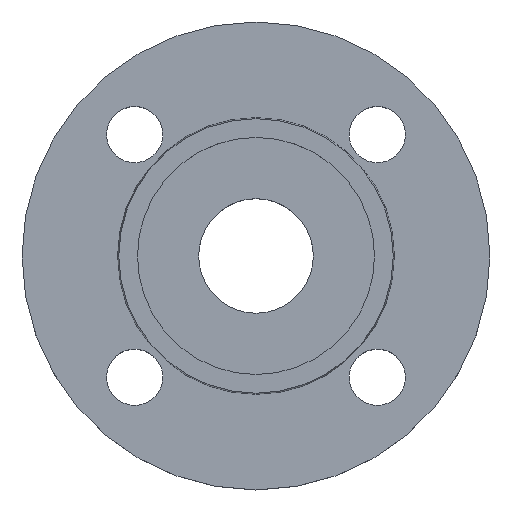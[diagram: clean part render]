
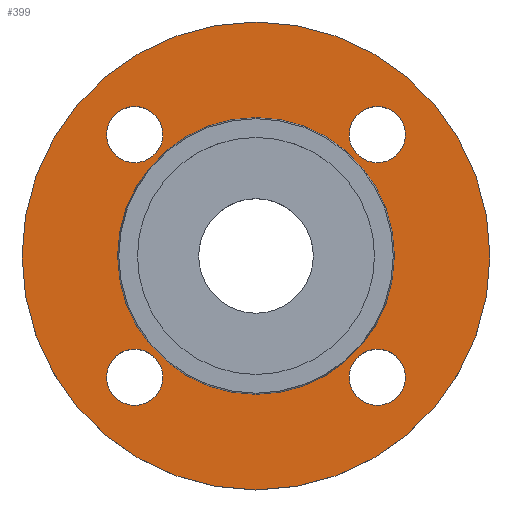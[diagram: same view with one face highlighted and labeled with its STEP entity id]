
A CAD part, top view. The second image highlights one B-rep face of the part: STEP entity #399.
In plain terms, the highlighted planar face has unit normal (0, 0, 1).
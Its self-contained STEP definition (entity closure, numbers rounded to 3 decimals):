
#42 = DIRECTION ( 'NONE',  ( 1., 0., 0. ) ) ;
#43 = DIRECTION ( 'NONE',  ( 0., 0., -1. ) ) ;
#44 = CARTESIAN_POINT ( 'NONE',  ( -38.891, -38.891, -2. ) ) ;
#48 = DIRECTION ( 'NONE',  ( -1., 0., 0. ) ) ;
#50 = CARTESIAN_POINT ( 'NONE',  ( -47.891, 38.891, -2. ) ) ;
#69 = AXIS2_PLACEMENT_3D ( 'NONE', #164, #168, #336 ) ;
#72 = CARTESIAN_POINT ( 'NONE',  ( 44.353, 0., -2. ) ) ;
#73 = EDGE_CURVE ( 'NONE', #424, #444, #386, .T. ) ;
#74 = CARTESIAN_POINT ( 'NONE',  ( -29.891, -38.891, -2. ) ) ;
#81 = CARTESIAN_POINT ( 'NONE',  ( -47.891, -38.891, -2. ) ) ;
#83 = CARTESIAN_POINT ( 'NONE',  ( 29.891, -38.891, -2. ) ) ;
#84 = CIRCLE ( 'NONE', #593, 9. ) ;
#91 = CARTESIAN_POINT ( 'NONE',  ( 47.891, -38.891, -2. ) ) ;
#112 = AXIS2_PLACEMENT_3D ( 'NONE', #226, #227, #229 ) ;
#120 = CARTESIAN_POINT ( 'NONE',  ( 75., 0., -2. ) ) ;
#134 = CARTESIAN_POINT ( 'NONE',  ( -75., 0., -2. ) ) ;
#141 = CARTESIAN_POINT ( 'NONE',  ( 0., 0., -2. ) ) ;
#146 = CARTESIAN_POINT ( 'NONE',  ( -44.353, 0., -2. ) ) ;
#147 = DIRECTION ( 'NONE',  ( -1., 0., 0. ) ) ;
#148 = DIRECTION ( 'NONE',  ( 0., 0., -1. ) ) ;
#164 = CARTESIAN_POINT ( 'NONE',  ( 38.891, -38.891, -2. ) ) ;
#168 = DIRECTION ( 'NONE',  ( 0., 0., -1. ) ) ;
#169 = CARTESIAN_POINT ( 'NONE',  ( 47.891, 38.891, -2. ) ) ;
#171 = DIRECTION ( 'NONE',  ( 1., 0., 0. ) ) ;
#173 = CARTESIAN_POINT ( 'NONE',  ( 38.891, -38.891, -2. ) ) ;
#188 = EDGE_CURVE ( 'NONE', #472, #500, #456, .T. ) ;
#201 = DIRECTION ( 'NONE',  ( 0., 0., -1. ) ) ;
#218 = CARTESIAN_POINT ( 'NONE',  ( 29.891, 38.891, -2. ) ) ;
#226 = CARTESIAN_POINT ( 'NONE',  ( -38.891, -38.891, -2. ) ) ;
#227 = DIRECTION ( 'NONE',  ( 0., 0., -1. ) ) ;
#229 = DIRECTION ( 'NONE',  ( 1., 0., 0. ) ) ;
#230 = CARTESIAN_POINT ( 'NONE',  ( 38.891, 38.891, -2. ) ) ;
#231 = DIRECTION ( 'NONE',  ( 0., 0., -1. ) ) ;
#233 = DIRECTION ( 'NONE',  ( 1., 0., 0. ) ) ;
#235 = EDGE_CURVE ( 'NONE', #428, #677, #431, .T. ) ;
#247 = CARTESIAN_POINT ( 'NONE',  ( 0., 0., -2. ) ) ;
#248 = EDGE_CURVE ( 'NONE', #677, #428, #645, .T. ) ;
#250 = DIRECTION ( 'NONE',  ( 0., 0., -1. ) ) ;
#252 = DIRECTION ( 'NONE',  ( -1., 0., 0. ) ) ;
#280 = EDGE_CURVE ( 'NONE', #663, #584, #371, .T. ) ;
#298 = AXIS2_PLACEMENT_3D ( 'NONE', #141, #148, #147 ) ;
#302 = CIRCLE ( 'NONE', #390, 44.353 ) ;
#303 = DIRECTION ( 'NONE',  ( 0., 0., -1. ) ) ;
#304 = FACE_BOUND ( 'NONE', #672, .T. ) ;
#305 = FACE_BOUND ( 'NONE', #678, .T. ) ;
#307 = FACE_BOUND ( 'NONE', #644, .T. ) ;
#308 = FACE_BOUND ( 'NONE', #674, .T. ) ;
#310 = FACE_BOUND ( 'NONE', #653, .T. ) ;
#311 = AXIS2_PLACEMENT_3D ( 'NONE', #423, #714, #715 ) ;
#312 = FACE_OUTER_BOUND ( 'NONE', #439, .T. ) ;
#314 = PLANE ( 'NONE',  #452 ) ;
#316 = CARTESIAN_POINT ( 'NONE',  ( 44.353, 0., -2. ) ) ;
#318 = DIRECTION ( 'NONE',  ( 0., 0., 1. ) ) ;
#319 = DIRECTION ( 'NONE',  ( 1., 0., 0. ) ) ;
#336 = DIRECTION ( 'NONE',  ( 1., 0., 0. ) ) ;
#345 = CARTESIAN_POINT ( 'NONE',  ( -29.891, 38.891, -2. ) ) ;
#346 = EDGE_CURVE ( 'NONE', #657, #668, #550, .T. ) ;
#358 = EDGE_CURVE ( 'NONE', #500, #472, #406, .T. ) ;
#367 = EDGE_CURVE ( 'NONE', #584, #663, #302, .T. ) ;
#369 = AXIS2_PLACEMENT_3D ( 'NONE', #801, #201, #48 ) ;
#371 = CIRCLE ( 'NONE', #369, 44.353 ) ;
#386 = CIRCLE ( 'NONE', #311, 75. ) ;
#390 = AXIS2_PLACEMENT_3D ( 'NONE', #247, #250, #252 ) ;
#399 = ADVANCED_FACE ( 'NONE', ( #304, #305, #307, #308, #310, #312 ), #314, .T. ) ;
#406 = CIRCLE ( 'NONE', #799, 9. ) ;
#418 = AXIS2_PLACEMENT_3D ( 'NONE', #44, #43, #42 ) ;
#420 = CIRCLE ( 'NONE', #418, 9. ) ;
#423 = CARTESIAN_POINT ( 'NONE',  ( 0., 0., -2. ) ) ;
#424 = VERTEX_POINT ( 'NONE', #134 ) ;
#428 = VERTEX_POINT ( 'NONE', #345 ) ;
#430 = AXIS2_PLACEMENT_3D ( 'NONE', #777, #778, #779 ) ;
#431 = CIRCLE ( 'NONE', #430, 9. ) ;
#439 = EDGE_LOOP ( 'NONE', ( #553, #555 ) ) ;
#444 = VERTEX_POINT ( 'NONE', #120 ) ;
#445 = EDGE_CURVE ( 'NONE', #444, #424, #736, .T. ) ;
#452 = AXIS2_PLACEMENT_3D ( 'NONE', #316, #318, #319 ) ;
#456 = CIRCLE ( 'NONE', #536, 9. ) ;
#472 = VERTEX_POINT ( 'NONE', #218 ) ;
#483 = AXIS2_PLACEMENT_3D ( 'NONE', #784, #785, #786 ) ;
#486 = CIRCLE ( 'NONE', #69, 9. ) ;
#494 = EDGE_CURVE ( 'NONE', #642, #651, #84, .T. ) ;
#500 = VERTEX_POINT ( 'NONE', #169 ) ;
#518 = EDGE_CURVE ( 'NONE', #651, #642, #486, .T. ) ;
#536 = AXIS2_PLACEMENT_3D ( 'NONE', #757, #758, #759 ) ;
#539 = ORIENTED_EDGE ( 'NONE', *, *, #494, .T. ) ;
#540 = ORIENTED_EDGE ( 'NONE', *, *, #518, .T. ) ;
#541 = ORIENTED_EDGE ( 'NONE', *, *, #710, .T. ) ;
#542 = ORIENTED_EDGE ( 'NONE', *, *, #346, .T. ) ;
#544 = ORIENTED_EDGE ( 'NONE', *, *, #235, .T. ) ;
#545 = ORIENTED_EDGE ( 'NONE', *, *, #248, .T. ) ;
#546 = ORIENTED_EDGE ( 'NONE', *, *, #358, .T. ) ;
#547 = ORIENTED_EDGE ( 'NONE', *, *, #188, .T. ) ;
#549 = ORIENTED_EDGE ( 'NONE', *, *, #367, .T. ) ;
#550 = CIRCLE ( 'NONE', #112, 9. ) ;
#552 = ORIENTED_EDGE ( 'NONE', *, *, #280, .T. ) ;
#553 = ORIENTED_EDGE ( 'NONE', *, *, #445, .F. ) ;
#555 = ORIENTED_EDGE ( 'NONE', *, *, #73, .F. ) ;
#584 = VERTEX_POINT ( 'NONE', #146 ) ;
#593 = AXIS2_PLACEMENT_3D ( 'NONE', #173, #303, #171 ) ;
#642 = VERTEX_POINT ( 'NONE', #91 ) ;
#644 = EDGE_LOOP ( 'NONE', ( #544, #545 ) ) ;
#645 = CIRCLE ( 'NONE', #483, 9. ) ;
#651 = VERTEX_POINT ( 'NONE', #83 ) ;
#653 = EDGE_LOOP ( 'NONE', ( #549, #552 ) ) ;
#657 = VERTEX_POINT ( 'NONE', #81 ) ;
#663 = VERTEX_POINT ( 'NONE', #72 ) ;
#668 = VERTEX_POINT ( 'NONE', #74 ) ;
#672 = EDGE_LOOP ( 'NONE', ( #539, #540 ) ) ;
#674 = EDGE_LOOP ( 'NONE', ( #546, #547 ) ) ;
#677 = VERTEX_POINT ( 'NONE', #50 ) ;
#678 = EDGE_LOOP ( 'NONE', ( #541, #542 ) ) ;
#710 = EDGE_CURVE ( 'NONE', #668, #657, #420, .T. ) ;
#714 = DIRECTION ( 'NONE',  ( 0., 0., -1. ) ) ;
#715 = DIRECTION ( 'NONE',  ( -1., 0., 0. ) ) ;
#736 = CIRCLE ( 'NONE', #298, 75. ) ;
#757 = CARTESIAN_POINT ( 'NONE',  ( 38.891, 38.891, -2. ) ) ;
#758 = DIRECTION ( 'NONE',  ( 0., 0., -1. ) ) ;
#759 = DIRECTION ( 'NONE',  ( 1., 0., 0. ) ) ;
#777 = CARTESIAN_POINT ( 'NONE',  ( -38.891, 38.891, -2. ) ) ;
#778 = DIRECTION ( 'NONE',  ( 0., 0., -1. ) ) ;
#779 = DIRECTION ( 'NONE',  ( 1., 0., 0. ) ) ;
#784 = CARTESIAN_POINT ( 'NONE',  ( -38.891, 38.891, -2. ) ) ;
#785 = DIRECTION ( 'NONE',  ( 0., 0., -1. ) ) ;
#786 = DIRECTION ( 'NONE',  ( 1., 0., 0. ) ) ;
#799 = AXIS2_PLACEMENT_3D ( 'NONE', #230, #231, #233 ) ;
#801 = CARTESIAN_POINT ( 'NONE',  ( 0., 0., -2. ) ) ;
